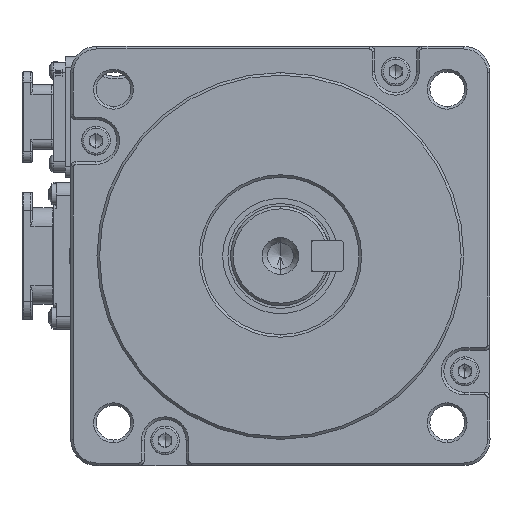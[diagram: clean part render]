
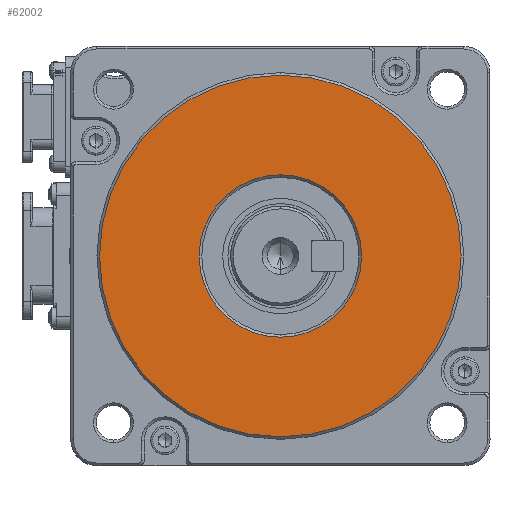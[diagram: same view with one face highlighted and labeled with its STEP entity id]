
A CAD part, left-side view. The second image highlights one B-rep face of the part: STEP entity #62002.
In plain terms, the highlighted planar face has unit normal (-1, 0, 0).
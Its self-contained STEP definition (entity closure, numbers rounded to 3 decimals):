
#2188 = CARTESIAN_POINT ( 'NONE',  ( -67.489, 6.471, 183.846 ) ) ;
#3107 = AXIS2_PLACEMENT_3D ( 'NONE', #41659, #3767, #89613 ) ;
#3767 = DIRECTION ( 'NONE',  ( 1., 0., 0. ) ) ;
#5073 = DIRECTION ( 'NONE',  ( -1., 0., 0. ) ) ;
#11984 = EDGE_CURVE ( 'NONE', #99829, #35483, #79669, .T. ) ;
#21276 = AXIS2_PLACEMENT_3D ( 'NONE', #61090, #111373, #99575 ) ;
#23046 = ORIENTED_EDGE ( 'NONE', *, *, #44645, .T. ) ;
#24211 = ORIENTED_EDGE ( 'NONE', *, *, #11984, .T. ) ;
#25116 = CARTESIAN_POINT ( 'NONE',  ( -67.489, 6.471, 149.346 ) ) ;
#27396 = CIRCLE ( 'NONE', #71734, 34.5 ) ;
#28353 = CARTESIAN_POINT ( 'NONE',  ( -67.489, 6.471, 199.346 ) ) ;
#35173 = CARTESIAN_POINT ( 'NONE',  ( -67.489, 6.471, 218.346 ) ) ;
#35483 = VERTEX_POINT ( 'NONE', #35173 ) ;
#37140 = CIRCLE ( 'NONE', #107662, 15.5 ) ;
#41659 = CARTESIAN_POINT ( 'NONE',  ( -67.489, 6.471, 183.846 ) ) ;
#43602 = CARTESIAN_POINT ( 'NONE',  ( -67.489, 6.471, 183.846 ) ) ;
#44645 = EDGE_CURVE ( 'NONE', #81197, #78568, #57523, .T. ) ;
#45322 = CARTESIAN_POINT ( 'NONE',  ( -67.489, 6.471, 168.346 ) ) ;
#50801 = FACE_BOUND ( 'NONE', #122317, .T. ) ;
#54912 = DIRECTION ( 'NONE',  ( 0., 0., -1. ) ) ;
#57523 = CIRCLE ( 'NONE', #3107, 15.5 ) ;
#60885 = DIRECTION ( 'NONE',  ( 0., 0., 1. ) ) ;
#61090 = CARTESIAN_POINT ( 'NONE',  ( -67.489, 6.471, 183.846 ) ) ;
#62002 = ADVANCED_FACE ( 'NONE', ( #50801, #108837 ), #98139, .T. ) ;
#63604 = CARTESIAN_POINT ( 'NONE',  ( -67.489, 6.471, 183.846 ) ) ;
#68891 = DIRECTION ( 'NONE',  ( 1., 0., 0. ) ) ;
#71734 = AXIS2_PLACEMENT_3D ( 'NONE', #43602, #5073, #54912 ) ;
#73062 = DIRECTION ( 'NONE',  ( 0., 0., 1. ) ) ;
#76954 = EDGE_CURVE ( 'NONE', #78568, #81197, #37140, .T. ) ;
#78238 = EDGE_CURVE ( 'NONE', #35483, #99829, #27396, .T. ) ;
#78568 = VERTEX_POINT ( 'NONE', #45322 ) ;
#79669 = CIRCLE ( 'NONE', #21276, 34.5 ) ;
#81197 = VERTEX_POINT ( 'NONE', #28353 ) ;
#88661 = DIRECTION ( 'NONE',  ( -1., 0., 0. ) ) ;
#89613 = DIRECTION ( 'NONE',  ( 0., 0., 1. ) ) ;
#98139 = PLANE ( 'NONE',  #113281 ) ;
#99575 = DIRECTION ( 'NONE',  ( 0., 0., -1. ) ) ;
#99829 = VERTEX_POINT ( 'NONE', #25116 ) ;
#107662 = AXIS2_PLACEMENT_3D ( 'NONE', #63604, #68891, #73062 ) ;
#108837 = FACE_OUTER_BOUND ( 'NONE', #111915, .T. ) ;
#110751 = ORIENTED_EDGE ( 'NONE', *, *, #76954, .T. ) ;
#111373 = DIRECTION ( 'NONE',  ( -1., 0., 0. ) ) ;
#111882 = ORIENTED_EDGE ( 'NONE', *, *, #78238, .T. ) ;
#111915 = EDGE_LOOP ( 'NONE', ( #24211, #111882 ) ) ;
#113281 = AXIS2_PLACEMENT_3D ( 'NONE', #2188, #88661, #60885 ) ;
#122317 = EDGE_LOOP ( 'NONE', ( #23046, #110751 ) ) ;
